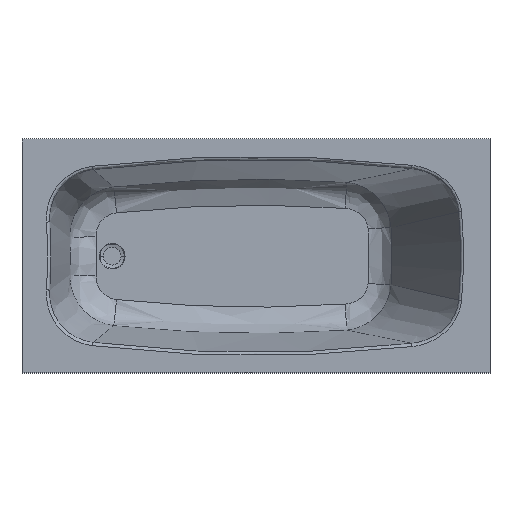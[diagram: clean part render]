
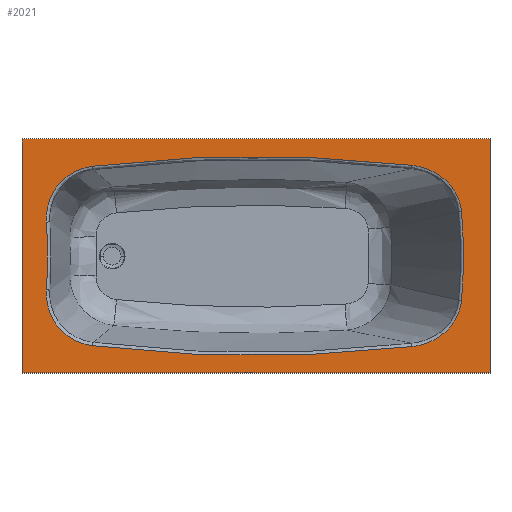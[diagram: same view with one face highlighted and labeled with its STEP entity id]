
A CAD part, top view. The second image highlights one B-rep face of the part: STEP entity #2021.
In plain terms, the highlighted planar face has unit normal (0, 0, 1).
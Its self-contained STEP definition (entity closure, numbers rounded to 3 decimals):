
#7=CARTESIAN_POINT('',(0.,700.0,0.0));
#8=VERTEX_POINT('',#7);
#9=CARTESIAN_POINT('',(1400.0,700.0,0.0));
#10=VERTEX_POINT('',#9);
#11=CARTESIAN_POINT('',(0.,700.0,0.0));
#12=DIRECTION('',(1.0,0.0,0.0));
#13=VECTOR('',#12,1400.0);
#14=LINE('',#11,#13);
#15=EDGE_CURVE('',#8,#10,#14,.T.);
#47=CARTESIAN_POINT('',(1400.0,0.0,0.0));
#48=VERTEX_POINT('',#47);
#49=CARTESIAN_POINT('',(1400.0,700.0,0.0));
#50=DIRECTION('',(0.0,-1.0,0.0));
#51=VECTOR('',#50,700.0);
#52=LINE('',#49,#51);
#53=EDGE_CURVE('',#10,#48,#52,.T.);
#78=CARTESIAN_POINT('',(0.,0.0,0.0));
#79=VERTEX_POINT('',#78);
#80=CARTESIAN_POINT('',(1400.0,0.0,0.0));
#81=DIRECTION('',(-1.0,0.0,0.0));
#82=VECTOR('',#81,1400.0);
#83=LINE('',#80,#82);
#84=EDGE_CURVE('',#48,#79,#83,.T.);
#109=CARTESIAN_POINT('',(0.,0.0,0.0));
#110=DIRECTION('',(0.0,1.0,0.0));
#111=VECTOR('',#110,700.0);
#112=LINE('',#109,#111);
#113=EDGE_CURVE('',#79,#8,#112,.T.);
#1890=CARTESIAN_POINT('',(1400.008,700.008,0.0));
#1891=DIRECTION('',(0.0,0.0,-1.0));
#1892=DIRECTION('',(0.0,-1.0,0.0));
#1893=AXIS2_PLACEMENT_3D('',#1890,#1891,#1892);
#1894=PLANE('',#1893);
#1895=ORIENTED_EDGE('',*,*,#15,.F.);
#1896=ORIENTED_EDGE('',*,*,#113,.F.);
#1897=ORIENTED_EDGE('',*,*,#84,.F.);
#1898=ORIENTED_EDGE('',*,*,#53,.F.);
#1899=EDGE_LOOP('',(#1895,#1896,#1897,#1898));
#1900=FACE_OUTER_BOUND('',#1899,.T.);
#1901=CARTESIAN_POINT('',(1314.918,217.336,0.0));
#1902=VERTEX_POINT('',#1901);
#1903=CARTESIAN_POINT('',(1314.918,482.664,0.0));
#1904=VERTEX_POINT('',#1903);
#1905=CARTESIAN_POINT('',(-185.,350.0,0.0));
#1906=DIRECTION('',(0.0,0.0,1.0));
#1907=DIRECTION('',(0.987,-0.164,0.0));
#1908=AXIS2_PLACEMENT_3D('',#1905,#1906,#1907);
#1909=CIRCLE('',#1908,1505.774);
#1910=EDGE_CURVE('',#1902,#1904,#1909,.T.);
#1911=ORIENTED_EDGE('',*,*,#1910,.F.);
#1912=CARTESIAN_POINT('',(1165.423,78.721,0.0));
#1913=VERTEX_POINT('',#1912);
#1914=CARTESIAN_POINT('',(1314.918,217.336,0.0));
#1915=CARTESIAN_POINT('',(1314.674,214.577,0.0));
#1916=CARTESIAN_POINT('',(1313.794,207.166,0.0));
#1917=CARTESIAN_POINT('',(1311.374,195.163,0.0));
#1918=CARTESIAN_POINT('',(1307.009,181.121,0.0));
#1919=CARTESIAN_POINT('',(1298.976,162.568,0.0));
#1920=CARTESIAN_POINT('',(1285.059,140.915,0.0));
#1921=CARTESIAN_POINT('',(1262.844,118.205,0.0));
#1922=CARTESIAN_POINT('',(1239.304,102.166,0.0));
#1923=CARTESIAN_POINT('',(1217.983,92.035,0.0));
#1924=CARTESIAN_POINT('',(1199.323,85.354,0.0));
#1925=CARTESIAN_POINT('',(1182.198,81.11,0.0));
#1926=CARTESIAN_POINT('',(1170.121,79.271,0.0));
#1927=CARTESIAN_POINT('',(1165.423,78.721,0.0));
#1928=B_SPLINE_CURVE_WITH_KNOTS('',3,(#1914,#1915,#1916,#1917,#1918,#1919,#1920,#1921,#1922,#1923,#1924,#1925,#1926,#1927),.UNSPECIFIED.,.F.,.U.,(4,1,1,1,1,1,1,1,1,1,1,4),(0.0,8.308,22.379,36.685,52.366,82.933,113.482,147.213,167.965,184.187,206.616,220.809),.UNSPECIFIED.);
#1929=EDGE_CURVE('',#1902,#1913,#1928,.T.);
#1930=ORIENTED_EDGE('',*,*,#1929,.T.);
#1931=CARTESIAN_POINT('',(211.149,81.53,0.0));
#1932=VERTEX_POINT('',#1931);
#1933=CARTESIAN_POINT('',(700.,4060.,0.0));
#1934=DIRECTION('',(0.0,0.0,1.0));
#1935=DIRECTION('',(-0.159,-0.987,0.0));
#1936=AXIS2_PLACEMENT_3D('',#1933,#1934,#1935);
#1937=CIRCLE('',#1936,4008.391);
#1938=EDGE_CURVE('',#1932,#1913,#1937,.T.);
#1939=ORIENTED_EDGE('',*,*,#1938,.F.);
#1940=CARTESIAN_POINT('',(73.161,248.631,0.0));
#1941=VERTEX_POINT('',#1940);
#1942=CARTESIAN_POINT('',(211.149,81.53,0.0));
#1943=CARTESIAN_POINT('',(207.588,81.968,0.0));
#1944=CARTESIAN_POINT('',(198.388,83.41,0.0));
#1945=CARTESIAN_POINT('',(183.98,86.971,0.0));
#1946=CARTESIAN_POINT('',(166.825,93.191,0.0));
#1947=CARTESIAN_POINT('',(150.328,101.497,0.0));
#1948=CARTESIAN_POINT('',(134.244,112.262,0.0));
#1949=CARTESIAN_POINT('',(120.392,124.127,0.0));
#1950=CARTESIAN_POINT('',(107.435,138.199,0.0));
#1951=CARTESIAN_POINT('',(96.616,153.3,0.0));
#1952=CARTESIAN_POINT('',(87.499,170.002,0.0));
#1953=CARTESIAN_POINT('',(80.385,187.673,0.0));
#1954=CARTESIAN_POINT('',(75.868,204.856,0.0));
#1955=CARTESIAN_POINT('',(73.341,221.675,0.0));
#1956=CARTESIAN_POINT('',(72.595,235.568,0.0));
#1957=CARTESIAN_POINT('',(72.907,244.903,0.0));
#1958=CARTESIAN_POINT('',(73.161,248.631,0.0));
#1959=B_SPLINE_CURVE_WITH_KNOTS('',3,(#1942,#1943,#1944,#1945,#1946,#1947,#1948,#1949,#1950,#1951,#1952,#1953,#1954,#1955,#1956,#1957,#1958),.UNSPECIFIED.,.F.,.U.,(4,1,1,1,1,1,1,1,1,1,1,1,1,1,4),(0.0,10.764,27.918,44.463,65.433,83.206,102.429,120.046,140.501,158.04,177.041,197.542,211.228,228.014,239.228),.UNSPECIFIED.);
#1960=EDGE_CURVE('',#1932,#1941,#1959,.T.);
#1961=ORIENTED_EDGE('',*,*,#1960,.T.);
#1962=CARTESIAN_POINT('',(73.161,451.369,0.0));
#1963=VERTEX_POINT('',#1962);
#1964=CARTESIAN_POINT('',(-1415.0,350.,0.0));
#1965=DIRECTION('',(0.0,0.0,-1.0));
#1966=DIRECTION('',(0.987,-0.16,0.0));
#1967=AXIS2_PLACEMENT_3D('',#1964,#1965,#1966);
#1968=CIRCLE('',#1967,1491.609);
#1969=EDGE_CURVE('',#1963,#1941,#1968,.T.);
#1970=ORIENTED_EDGE('',*,*,#1969,.F.);
#1971=CARTESIAN_POINT('',(211.149,618.47,0.0));
#1972=VERTEX_POINT('',#1971);
#1973=CARTESIAN_POINT('',(211.149,618.47,0.0));
#1974=CARTESIAN_POINT('',(207.588,618.032,0.0));
#1975=CARTESIAN_POINT('',(198.388,616.59,0.0));
#1976=CARTESIAN_POINT('',(183.98,613.029,0.0));
#1977=CARTESIAN_POINT('',(166.825,606.809,0.0));
#1978=CARTESIAN_POINT('',(150.328,598.503,0.0));
#1979=CARTESIAN_POINT('',(134.244,587.738,0.0));
#1980=CARTESIAN_POINT('',(120.392,575.873,0.0));
#1981=CARTESIAN_POINT('',(107.435,561.801,0.0));
#1982=CARTESIAN_POINT('',(96.616,546.7,0.0));
#1983=CARTESIAN_POINT('',(87.499,529.998,0.0));
#1984=CARTESIAN_POINT('',(80.385,512.327,0.0));
#1985=CARTESIAN_POINT('',(75.868,495.144,0.0));
#1986=CARTESIAN_POINT('',(73.341,478.325,0.0));
#1987=CARTESIAN_POINT('',(72.595,464.432,0.0));
#1988=CARTESIAN_POINT('',(72.907,455.097,0.0));
#1989=CARTESIAN_POINT('',(73.161,451.369,0.0));
#1990=B_SPLINE_CURVE_WITH_KNOTS('',3,(#1973,#1974,#1975,#1976,#1977,#1978,#1979,#1980,#1981,#1982,#1983,#1984,#1985,#1986,#1987,#1988,#1989),.UNSPECIFIED.,.F.,.U.,(4,1,1,1,1,1,1,1,1,1,1,1,1,1,4),(0.0,10.764,27.918,44.463,65.433,83.206,102.429,120.046,140.501,158.04,177.041,197.542,211.228,228.014,239.228),.UNSPECIFIED.);
#1991=EDGE_CURVE('',#1972,#1963,#1990,.T.);
#1992=ORIENTED_EDGE('',*,*,#1991,.F.);
#1993=CARTESIAN_POINT('',(1165.423,621.279,0.0));
#1994=VERTEX_POINT('',#1993);
#1995=CARTESIAN_POINT('',(700.,-3360.,0.0));
#1996=DIRECTION('',(0.0,0.0,-1.0));
#1997=DIRECTION('',(-0.159,0.987,0.0));
#1998=AXIS2_PLACEMENT_3D('',#1995,#1996,#1997);
#1999=CIRCLE('',#1998,4008.391);
#2000=EDGE_CURVE('',#1972,#1994,#1999,.T.);
#2001=ORIENTED_EDGE('',*,*,#2000,.T.);
#2002=CARTESIAN_POINT('',(1314.918,482.664,0.0));
#2003=CARTESIAN_POINT('',(1314.674,485.423,0.0));
#2004=CARTESIAN_POINT('',(1313.794,492.834,0.0));
#2005=CARTESIAN_POINT('',(1311.374,504.837,0.0));
#2006=CARTESIAN_POINT('',(1307.009,518.879,0.0));
#2007=CARTESIAN_POINT('',(1298.976,537.432,0.0));
#2008=CARTESIAN_POINT('',(1285.059,559.085,0.0));
#2009=CARTESIAN_POINT('',(1262.845,581.795,0.0));
#2010=CARTESIAN_POINT('',(1239.304,597.834,0.0));
#2011=CARTESIAN_POINT('',(1217.983,607.965,0.0));
#2012=CARTESIAN_POINT('',(1199.323,614.646,0.0));
#2013=CARTESIAN_POINT('',(1182.198,618.89,0.0));
#2014=CARTESIAN_POINT('',(1170.121,620.729,0.0));
#2015=CARTESIAN_POINT('',(1165.423,621.279,0.0));
#2016=B_SPLINE_CURVE_WITH_KNOTS('',3,(#2002,#2003,#2004,#2005,#2006,#2007,#2008,#2009,#2010,#2011,#2012,#2013,#2014,#2015),.UNSPECIFIED.,.F.,.U.,(4,1,1,1,1,1,1,1,1,1,1,4),(0.0,8.308,22.379,36.685,52.366,82.933,113.482,147.213,167.965,184.187,206.616,220.809),.UNSPECIFIED.);
#2017=EDGE_CURVE('',#1904,#1994,#2016,.T.);
#2018=ORIENTED_EDGE('',*,*,#2017,.F.);
#2019=EDGE_LOOP('',(#1911,#1930,#1939,#1961,#1970,#1992,#2001,#2018));
#2020=FACE_BOUND('',#2019,.T.);
#2021=ADVANCED_FACE('',(#1900,#2020),#1894,.F.);
